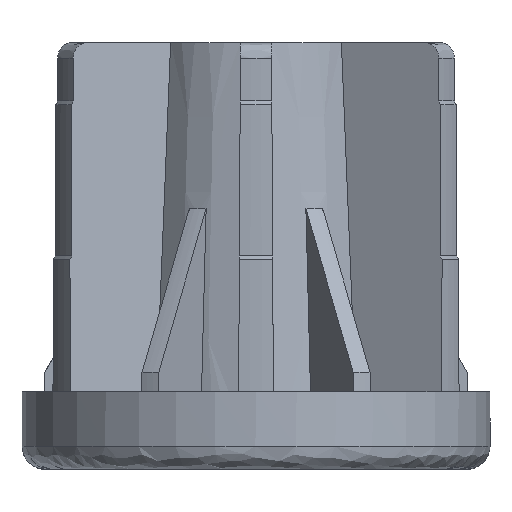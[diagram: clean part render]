
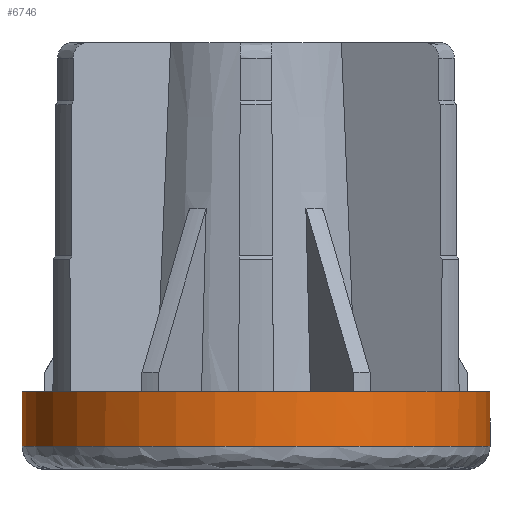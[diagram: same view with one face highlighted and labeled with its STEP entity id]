
A CAD part, front view. The second image highlights one B-rep face of the part: STEP entity #6746.
In plain terms, the highlighted cylindrical face has radius 30.15 mm (diameter 60.3 mm), a partial arc.
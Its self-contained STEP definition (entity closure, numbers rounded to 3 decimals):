
#565 = CARTESIAN_POINT ( 'NONE',  ( 0., 0., -45. ) ) ;
#593 = EDGE_CURVE ( 'NONE', #5734, #4438, #2355, .T. ) ;
#637 = DIRECTION ( 'NONE',  ( 1., -0.005, 0. ) ) ;
#688 = ORIENTED_EDGE ( 'NONE', *, *, #952, .F. ) ;
#897 = VECTOR ( 'NONE', #6028, 1000. ) ;
#952 = EDGE_CURVE ( 'NONE', #5734, #1129, #2748, .T. ) ;
#1129 = VERTEX_POINT ( 'NONE', #2315 ) ;
#1392 = VECTOR ( 'NONE', #2538, 1000. ) ;
#1503 = CARTESIAN_POINT ( 'NONE',  ( 30.15, 0., 2.75 ) ) ;
#1504 = ORIENTED_EDGE ( 'NONE', *, *, #2866, .F. ) ;
#1639 = EDGE_CURVE ( 'NONE', #1129, #2983, #6068, .T. ) ;
#1789 = AXIS2_PLACEMENT_3D ( 'NONE', #3999, #5112, #2016 ) ;
#2016 = DIRECTION ( 'NONE',  ( -1., 0., 0. ) ) ;
#2315 = CARTESIAN_POINT ( 'NONE',  ( 30.15, 0., -52. ) ) ;
#2355 = CIRCLE ( 'NONE', #2726, 30.15 ) ;
#2508 = CARTESIAN_POINT ( 'NONE',  ( 30.15, -0.15, -52. ) ) ;
#2538 = DIRECTION ( 'NONE',  ( 0., 0., -1. ) ) ;
#2610 = AXIS2_PLACEMENT_3D ( 'NONE', #5838, #4212, #637 ) ;
#2638 = DIRECTION ( 'NONE',  ( 0., 0., -1. ) ) ;
#2726 = AXIS2_PLACEMENT_3D ( 'NONE', #565, #2638, #6238 ) ;
#2748 = LINE ( 'NONE', #1503, #1392 ) ;
#2850 = CARTESIAN_POINT ( 'NONE',  ( -30.15, 0., -45. ) ) ;
#2866 = EDGE_CURVE ( 'NONE', #2983, #5072, #4744, .T. ) ;
#2891 = CARTESIAN_POINT ( 'NONE',  ( 0., 0., -52. ) ) ;
#2983 = VERTEX_POINT ( 'NONE', #2508 ) ;
#3203 = CYLINDRICAL_SURFACE ( 'NONE', #1789, 30.15 ) ;
#3890 = CARTESIAN_POINT ( 'NONE',  ( -30.15, 0., -52. ) ) ;
#3999 = CARTESIAN_POINT ( 'NONE',  ( 0., 0., 2.75 ) ) ;
#4212 = DIRECTION ( 'NONE',  ( 0., 0., -1. ) ) ;
#4438 = VERTEX_POINT ( 'NONE', #2850 ) ;
#4444 = ORIENTED_EDGE ( 'NONE', *, *, #6470, .T. ) ;
#4720 = ORIENTED_EDGE ( 'NONE', *, *, #1639, .F. ) ;
#4744 = CIRCLE ( 'NONE', #4922, 30.15 ) ;
#4773 = LINE ( 'NONE', #5472, #897 ) ;
#4922 = AXIS2_PLACEMENT_3D ( 'NONE', #2891, #6054, #6080 ) ;
#4931 = FACE_OUTER_BOUND ( 'NONE', #6151, .T. ) ;
#5020 = ORIENTED_EDGE ( 'NONE', *, *, #593, .T. ) ;
#5072 = VERTEX_POINT ( 'NONE', #3890 ) ;
#5112 = DIRECTION ( 'NONE',  ( 0., 0., -1. ) ) ;
#5472 = CARTESIAN_POINT ( 'NONE',  ( -30.15, 0., 2.75 ) ) ;
#5734 = VERTEX_POINT ( 'NONE', #6187 ) ;
#5838 = CARTESIAN_POINT ( 'NONE',  ( 0., 0., -52. ) ) ;
#6028 = DIRECTION ( 'NONE',  ( 0., 0., -1. ) ) ;
#6054 = DIRECTION ( 'NONE',  ( 0., 0., -1. ) ) ;
#6068 = CIRCLE ( 'NONE', #2610, 30.15 ) ;
#6080 = DIRECTION ( 'NONE',  ( 1., -0.005, 0. ) ) ;
#6151 = EDGE_LOOP ( 'NONE', ( #688, #5020, #4444, #1504, #4720 ) ) ;
#6187 = CARTESIAN_POINT ( 'NONE',  ( 30.15, 0., -45. ) ) ;
#6238 = DIRECTION ( 'NONE',  ( -1., 0., 0. ) ) ;
#6470 = EDGE_CURVE ( 'NONE', #4438, #5072, #4773, .T. ) ;
#6746 = ADVANCED_FACE ( 'NONE', ( #4931 ), #3203, .T. ) ;
